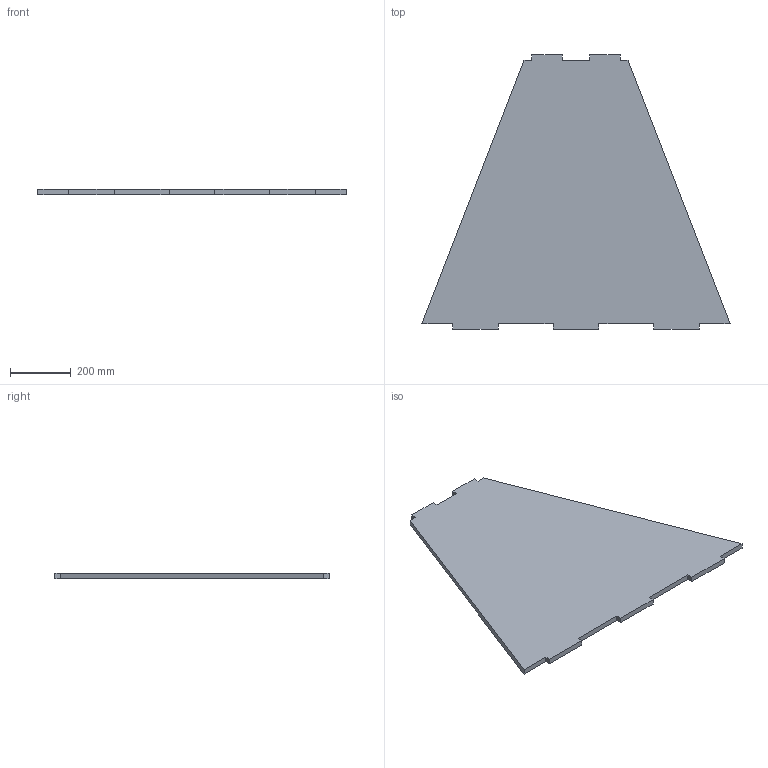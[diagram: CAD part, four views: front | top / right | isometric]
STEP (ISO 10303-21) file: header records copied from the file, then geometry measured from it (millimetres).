
FILE_DESCRIPTION(('Open CASCADE Model'),'2;1');
FILE_NAME('Open CASCADE Shape Model','2026-09-27T09:36:06',('Author'),( 'Open CASCADE'),'Open CASCADE STEP processor 7.9','Open CASCADE 7.9' ,'Unknown');
FILE_SCHEMA(('AUTOMOTIVE_DESIGN { 1 0 10303 214 1 1 1 1 }'));
Length unit declared in the file: millimetre
Products named in the file (1): Open CASCADE STEP translator 7.9 5
Bounding box: 1011.39 x 900 x 18 mm (x, y, z)
Volume: 10729796.5 mm3; surface area: 1253149.8 mm2
Topology: 1 solids, 1 shells, 26 faces, 72 edges, 48 vertices
Faces by surface type: plane 26
Entity records: 1762 total; most frequent: CARTESIAN_POINT 291, DIRECTION 270, LINE 216, VECTOR 216, ORIENTED_EDGE 144, PCURVE 144, DEFINITIONAL_REPRESENTATION 144, EDGE_CURVE 72
